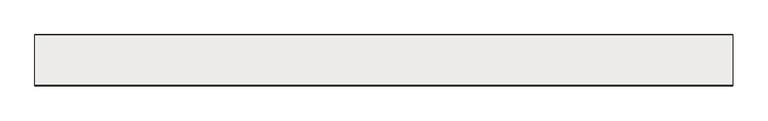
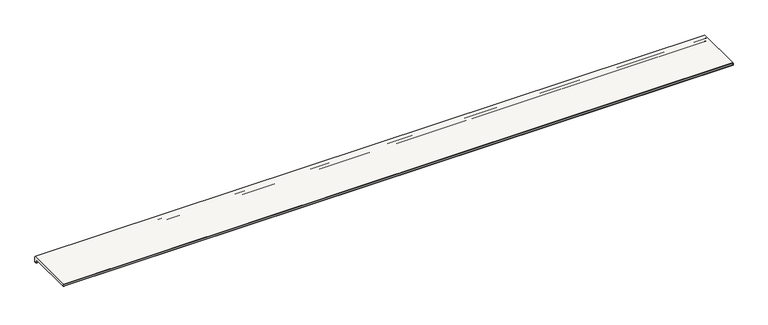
"""IFC4 building model written with IfcOpenShell, lengths in millimetres: slab geometry, ROSA GRES_L62 : Pieza L62_Pietro_White_Anti-Slip."""

from ifc_helpers import new_model, si_unit, point, frame, frame_2d, origin, place, context, project, spatial, polyline, circle_curve, trimmed, segment, composite_curve, outline, extrude, source, transform, mapped, element, save


def slab_bb0e90c2(model_context):
    return source(origin(), model_context, "Body", "SweptSolid", [
        extrude(outline(composite_curve([segment(trimmed(circle_curve(frame_2d((-12.1001991, -35.1001991)), 1.8998009), [point((-12.1001991, -37.0))], [point((-14.0, -35.1001991))], False, "CARTESIAN"), True, "CONTINUOUS"), segment(polyline([(-14.0, -35.1001991), (-14.0, -16.5836242)]), True, "CONTINUOUS"), segment(trimmed(circle_curve(frame_2d((-16.6422322, -16.5836242)), 2.6422322), [point((-14.0, -16.5836242))], [point((-16.6422322, -13.9413919))], True, "CARTESIAN"), True, "CONTINUOUS"), segment(polyline([(-16.6422322, -13.9413919), (-315.5234432, -13.9413919)]), True, "CONTINUOUS"), segment(trimmed(circle_curve(frame_2d((-315.5234432, -12.4648352)), 1.4765568), [point((-315.5234432, -13.9413919))], [point((-317.0, -12.4648352))], False, "CARTESIAN"), True, "CONTINUOUS"), segment(polyline([(-317.0, -12.4648352), (-317.0, -2.5), (-315.5, 0.0), (-2.5, 0.0), (0.0, -2.5), (0.0, -34.5)]), True, "CONTINUOUS"), segment(trimmed(circle_curve(frame_2d((-2.5, -34.5)), 2.5), [point((0.0, -34.5))], [point((-2.5, -37.0))], False, "CARTESIAN"), True, "CONTINUOUS"), segment(polyline([(-2.5, -37.0), (-5.422949, -37.0)]), True, "CONTINUOUS"), segment(trimmed(circle_curve(frame_2d((-7.4142134, -37.0)), 1.9912643), [point((-5.422949, -37.0))], [point((-9.4054777, -37.0))], True, "CARTESIAN"), True, "CONTINUOUS"), segment(polyline([(-9.4054777, -37.0), (-12.1001991, -37.0)]), True, "CONTINUOUS")], self_intersect=False)), frame((0.0, 0.0, 0.0), z_axis=(1.0, 0.0, 0.0), x_axis=(0.0, 1.0, 0.0)), (0.0, 0.0, 1.0), 4320.0),
    ])


if __name__ == "__main__":
    model = new_model("IFC4")
    model_context = context("Model", 3, world=origin())
    ifc_project = project(units=[si_unit("LENGTHUNIT", "METRE", prefix="MILLI")], contexts=[model_context])
    site = spatial("IfcSite", under=ifc_project)
    building = spatial("IfcBuilding", under=site)
    placement = place(None, origin())
    slab_shape = slab_bb0e90c2(model_context)
    element("IfcSlab", 1, ObjectType="ROSA GRES_L62 : Pieza L62_Pietro_White_Anti-Slip", at=placement, inside=building, context=model_context, shape_type="MappedRepresentation", body=[
        mapped(slab_shape, transform((0.0, 0.0, 0.0), x_axis=(1.0, 0.0, 0.0), y_axis=(0.0, 1.0, 0.0), z_axis=(0.0, 0.0, 1.0))),
    ])
    save(model, "model.ifc")
